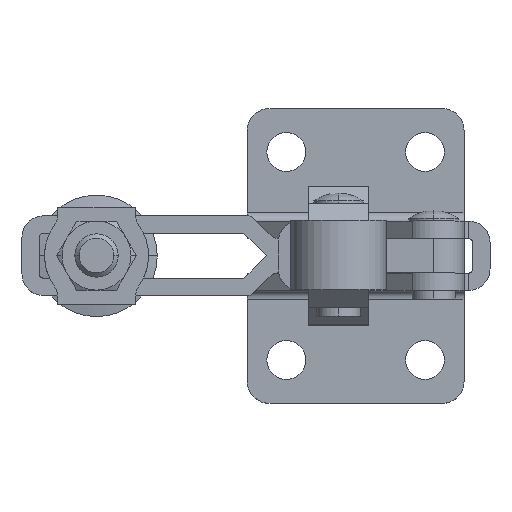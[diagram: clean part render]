
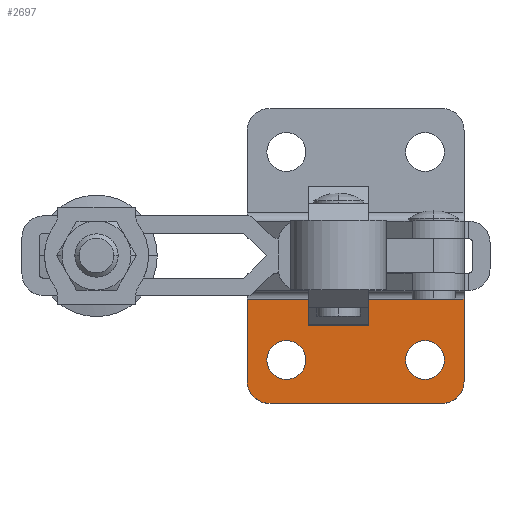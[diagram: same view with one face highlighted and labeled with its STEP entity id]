
A CAD part, top view. The second image highlights one B-rep face of the part: STEP entity #2697.
In plain terms, the highlighted planar face has unit normal (0, 0, 1).
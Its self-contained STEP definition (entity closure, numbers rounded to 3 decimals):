
#1224=CARTESIAN_POINT('Cartesian Point',(23.9,-17.,2.)) ;
#1240=CARTESIAN_POINT('Cartesian Point',(43.9,-17.,2.)) ;
#1243=CARTESIAN_POINT('Line Origine',(33.9,-17.,2.)) ;
#1260=CARTESIAN_POINT('Axis2P3D Location',(23.9,-14.5,2.)) ;
#1264=CARTESIAN_POINT('Cartesian Point',(21.4,-14.5,2.)) ;
#1903=CARTESIAN_POINT('Cartesian Point',(46.4,-14.5,2.)) ;
#1908=CARTESIAN_POINT('Axis2P3D Location',(43.9,-14.5,2.)) ;
#2410=CARTESIAN_POINT('Line Origine',(21.4,-9.75,2.)) ;
#2414=CARTESIAN_POINT('Cartesian Point',(21.4,-5.,2.)) ;
#2573=CARTESIAN_POINT('Cartesian Point',(46.4,-5.,2.)) ;
#2576=CARTESIAN_POINT('Line Origine',(46.4,-9.75,2.)) ;
#2643=CARTESIAN_POINT('Axis2P3D Location',(20.4,-5.,2.)) ;
#2648=CARTESIAN_POINT('Line Origine',(33.9,-5.,2.)) ;
#2661=CARTESIAN_POINT('Axis2P3D Location',(25.9,-12.,2.)) ;
#2665=CARTESIAN_POINT('Cartesian Point',(25.9,-9.75,2.)) ;
#2667=CARTESIAN_POINT('Cartesian Point',(25.9,-14.25,2.)) ;
#2670=CARTESIAN_POINT('Axis2P3D Location',(25.9,-12.,2.)) ;
#2679=CARTESIAN_POINT('Axis2P3D Location',(41.9,-12.,2.)) ;
#2683=CARTESIAN_POINT('Cartesian Point',(41.9,-9.75,2.)) ;
#2685=CARTESIAN_POINT('Cartesian Point',(41.9,-14.25,2.)) ;
#2688=CARTESIAN_POINT('Axis2P3D Location',(41.9,-12.,2.)) ;
#1244=DIRECTION('Vector Direction',(1.,0.,0.)) ;
#1261=DIRECTION('Axis2P3D Direction',(0.,0.,-1.)) ;
#1909=DIRECTION('Axis2P3D Direction',(0.,0.,-1.)) ;
#2411=DIRECTION('Vector Direction',(0.,-1.,0.)) ;
#2577=DIRECTION('Vector Direction',(0.,-1.,0.)) ;
#2644=DIRECTION('Axis2P3D Direction',(0.,0.,1.)) ;
#2645=DIRECTION('Axis2P3D XDirection',(-1.,0.,0.)) ;
#2649=DIRECTION('Vector Direction',(1.,0.,0.)) ;
#2662=DIRECTION('Axis2P3D Direction',(0.,0.,1.)) ;
#2671=DIRECTION('Axis2P3D Direction',(0.,0.,1.)) ;
#2680=DIRECTION('Axis2P3D Direction',(0.,0.,1.)) ;
#2689=DIRECTION('Axis2P3D Direction',(0.,0.,1.)) ;
#1262=AXIS2_PLACEMENT_3D('Circle Axis2P3D',#1260,#1261,$) ;
#1910=AXIS2_PLACEMENT_3D('Circle Axis2P3D',#1908,#1909,$) ;
#2646=AXIS2_PLACEMENT_3D('Plane Axis2P3D',#2643,#2644,#2645) ;
#2663=AXIS2_PLACEMENT_3D('Circle Axis2P3D',#2661,#2662,$) ;
#2672=AXIS2_PLACEMENT_3D('Circle Axis2P3D',#2670,#2671,$) ;
#2681=AXIS2_PLACEMENT_3D('Circle Axis2P3D',#2679,#2680,$) ;
#2690=AXIS2_PLACEMENT_3D('Circle Axis2P3D',#2688,#2689,$) ;
#2654=ORIENTED_EDGE('Oriented Edge',*,*,#2652,.F.) ;
#2655=ORIENTED_EDGE('Oriented Edge',*,*,#2416,.T.) ;
#2656=ORIENTED_EDGE('Oriented Edge',*,*,#1266,.T.) ;
#2657=ORIENTED_EDGE('Oriented Edge',*,*,#1247,.T.) ;
#2658=ORIENTED_EDGE('Oriented Edge',*,*,#1912,.T.) ;
#2659=ORIENTED_EDGE('Oriented Edge',*,*,#2580,.F.) ;
#2676=ORIENTED_EDGE('Oriented Edge',*,*,#2669,.F.) ;
#2677=ORIENTED_EDGE('Oriented Edge',*,*,#2674,.F.) ;
#2694=ORIENTED_EDGE('Oriented Edge',*,*,#2687,.F.) ;
#2695=ORIENTED_EDGE('Oriented Edge',*,*,#2692,.F.) ;
#2678=FACE_BOUND('Face Bound',#2675,.T.) ;
#2696=FACE_BOUND('Face Bound',#2693,.T.) ;
#1245=VECTOR('Line Direction',#1244,1.) ;
#2412=VECTOR('Line Direction',#2411,1.) ;
#2578=VECTOR('Line Direction',#2577,1.) ;
#2650=VECTOR('Line Direction',#2649,1.) ;
#2697=ADVANCED_FACE('',(#2660,#2678,#2696),#2647,.T.) ;
#1263=CIRCLE('generated circle',#1262,2.5) ;
#1911=CIRCLE('generated circle',#1910,2.5) ;
#2664=CIRCLE('generated circle',#2663,2.25) ;
#2673=CIRCLE('generated circle',#2672,2.25) ;
#2682=CIRCLE('generated circle',#2681,2.25) ;
#2691=CIRCLE('generated circle',#2690,2.25) ;
#1247=EDGE_CURVE('',#1225,#1241,#1246,.T.) ;
#1266=EDGE_CURVE('',#1265,#1225,#1263,.F.) ;
#1912=EDGE_CURVE('',#1241,#1904,#1911,.F.) ;
#2416=EDGE_CURVE('',#2415,#1265,#2413,.T.) ;
#2580=EDGE_CURVE('',#2574,#1904,#2579,.T.) ;
#2652=EDGE_CURVE('',#2415,#2574,#2651,.T.) ;
#2669=EDGE_CURVE('',#2666,#2668,#2664,.T.) ;
#2674=EDGE_CURVE('',#2668,#2666,#2673,.T.) ;
#2687=EDGE_CURVE('',#2684,#2686,#2682,.T.) ;
#2692=EDGE_CURVE('',#2686,#2684,#2691,.T.) ;
#2653=EDGE_LOOP('Oriented Loop',(#2654,#2655,#2656,#2657,#2658,#2659)) ;
#2675=EDGE_LOOP('Oriented Loop',(#2676,#2677)) ;
#2693=EDGE_LOOP('Oriented Loop',(#2694,#2695)) ;
#2660=FACE_OUTER_BOUND('Face Bound',#2653,.T.) ;
#1246=LINE('Line',#1243,#1245) ;
#2413=LINE('Line',#2410,#2412) ;
#2579=LINE('Line',#2576,#2578) ;
#2651=LINE('Line',#2648,#2650) ;
#2647=PLANE('Plane',#2646) ;
#1225=VERTEX_POINT('Vertex Point',#1224) ;
#1241=VERTEX_POINT('Vertex Point',#1240) ;
#1265=VERTEX_POINT('Vertex Point',#1264) ;
#1904=VERTEX_POINT('Vertex Point',#1903) ;
#2415=VERTEX_POINT('Vertex Point',#2414) ;
#2574=VERTEX_POINT('Vertex Point',#2573) ;
#2666=VERTEX_POINT('Vertex Point',#2665) ;
#2668=VERTEX_POINT('Vertex Point',#2667) ;
#2684=VERTEX_POINT('Vertex Point',#2683) ;
#2686=VERTEX_POINT('Vertex Point',#2685) ;
